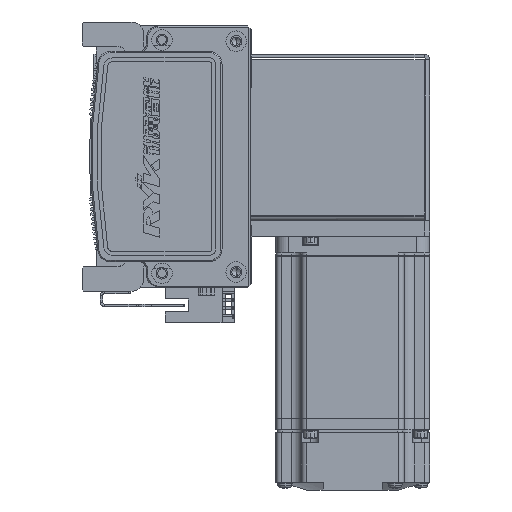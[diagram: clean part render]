
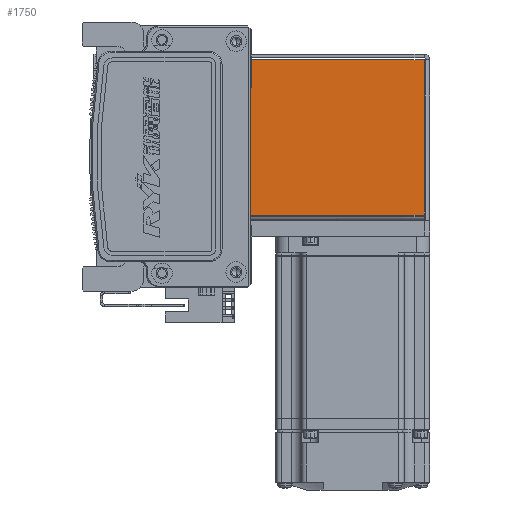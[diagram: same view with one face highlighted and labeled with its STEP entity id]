
A CAD part, left-side view. The second image highlights one B-rep face of the part: STEP entity #1750.
In plain terms, the highlighted planar face has unit normal (-1, 0, 0) as drawn and (0, 0, -1) by its records, which use the part's own axes.
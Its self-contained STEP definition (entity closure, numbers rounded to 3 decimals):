
#324 = DIRECTION ( 'NONE',  ( 0., 0., 1. ) ) ;
#1750 = ADVANCED_FACE ( 'NONE', ( #9516 ), #48777, .F. ) ;
#2449 = LINE ( 'NONE', #49956, #53982 ) ;
#3630 = CARTESIAN_POINT ( 'NONE',  ( 30.263, 72.5, -35. ) ) ;
#4485 = ORIENTED_EDGE ( 'NONE', *, *, #65975, .F. ) ;
#9516 = FACE_OUTER_BOUND ( 'NONE', #50317, .T. ) ;
#11927 = CARTESIAN_POINT ( 'NONE',  ( -30.293, 72.5, -35. ) ) ;
#13125 = VERTEX_POINT ( 'NONE', #3630 ) ;
#15926 = CARTESIAN_POINT ( 'NONE',  ( 0., 0., -35. ) ) ;
#19124 = VECTOR ( 'NONE', #31085, 1000. ) ;
#21452 = DIRECTION ( 'NONE',  ( 0., -1., 0. ) ) ;
#21473 = AXIS2_PLACEMENT_3D ( 'NONE', #15926, #324, #21452 ) ;
#23230 = LINE ( 'NONE', #65047, #27482 ) ;
#24278 = VERTEX_POINT ( 'NONE', #32299 ) ;
#25819 = CARTESIAN_POINT ( 'NONE',  ( 30.263, 72.5, -35. ) ) ;
#27482 = VECTOR ( 'NONE', #58822, 1000. ) ;
#27861 = DIRECTION ( 'NONE',  ( 1., 0., 0. ) ) ;
#30211 = EDGE_CURVE ( 'NONE', #56119, #13125, #47361, .T. ) ;
#31085 = DIRECTION ( 'NONE',  ( 0., -1., 0. ) ) ;
#32299 = CARTESIAN_POINT ( 'NONE',  ( -30.293, 0.737, -35. ) ) ;
#36427 = ORIENTED_EDGE ( 'NONE', *, *, #55391, .T. ) ;
#37172 = LINE ( 'NONE', #25819, #19124 ) ;
#43937 = VECTOR ( 'NONE', #27861, 1000. ) ;
#46551 = ORIENTED_EDGE ( 'NONE', *, *, #30211, .T. ) ;
#47361 = LINE ( 'NONE', #49701, #43937 ) ;
#48777 = PLANE ( 'NONE',  #21473 ) ;
#49701 = CARTESIAN_POINT ( 'NONE',  ( 0., 72.5, -35. ) ) ;
#49956 = CARTESIAN_POINT ( 'NONE',  ( 32.5, 0.737, -35. ) ) ;
#50190 = DIRECTION ( 'NONE',  ( 1., 0., 0. ) ) ;
#50317 = EDGE_LOOP ( 'NONE', ( #69074, #4485, #36427, #46551 ) ) ;
#53547 = EDGE_CURVE ( 'NONE', #13125, #68533, #37172, .T. ) ;
#53674 = CARTESIAN_POINT ( 'NONE',  ( 30.263, 0.737, -35. ) ) ;
#53982 = VECTOR ( 'NONE', #50190, 1000. ) ;
#55391 = EDGE_CURVE ( 'NONE', #24278, #56119, #23230, .T. ) ;
#56119 = VERTEX_POINT ( 'NONE', #11927 ) ;
#58822 = DIRECTION ( 'NONE',  ( 0., 1., 0. ) ) ;
#65047 = CARTESIAN_POINT ( 'NONE',  ( -30.293, 0., -35. ) ) ;
#65975 = EDGE_CURVE ( 'NONE', #24278, #68533, #2449, .T. ) ;
#68533 = VERTEX_POINT ( 'NONE', #53674 ) ;
#69074 = ORIENTED_EDGE ( 'NONE', *, *, #53547, .T. ) ;
